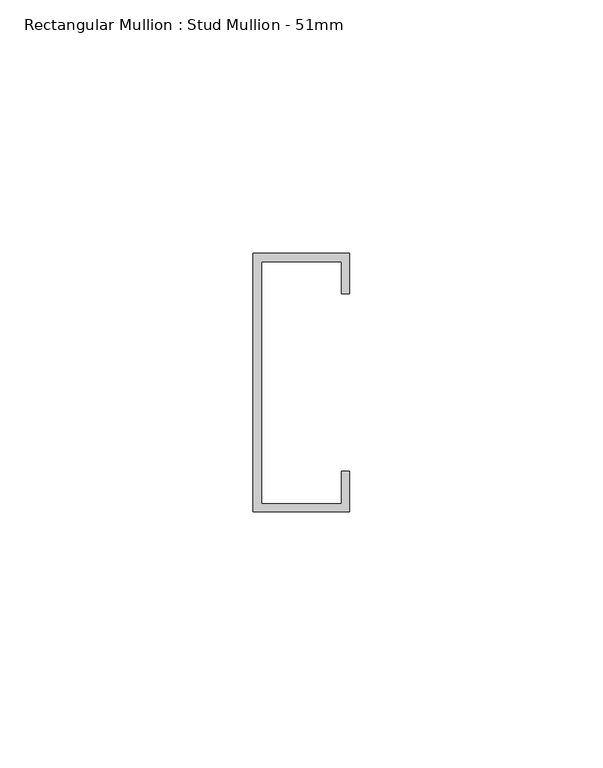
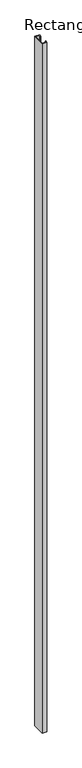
"""IFC4 building model written with IfcOpenShell, lengths in millimetres: member geometry, Rectangular Mullion : Stud Mullion - 51mm."""

import ifcopenshell
import ifcopenshell.guid

model = None  # the IFC model being written
_history = None  # IfcOwnerHistory: only IFC2X3 demands one
_inside = {}  # id of a spatial element -> (the spatial element, [elements in it])
_under = {}  # id of a project, library or spatial element -> (it, [spatial elements below it])
_declared = {}  # id of a project -> (the project, [libraries it declares])
_typed = {}  # id of a type object -> (the type object, [elements of that type])
_made_of = {}  # id of a material, layer set ... -> (it, [elements and type objects made of it])


def new_model(schema):
    """Start an empty IFC model of exactly this schema.

    Asked for "IFC4X3", IfcOpenShell would pick the latest addendum, in which some entities
    have other attributes; the version numbers below select the first issue.
    IFC2X3 requires an IfcOwnerHistory on every rooted entity: one is made here for all.
    """
    global model, _history
    if schema == "IFC4X3":
        model = ifcopenshell.file(schema_version=(4, 3, 0, 0))
    else:
        model = ifcopenshell.file(schema=schema)
    _inside.clear()
    _under.clear()
    _declared.clear()
    _typed.clear()
    _made_of.clear()
    _history = None
    if model.schema == "IFC2X3":
        org = make("IfcOrganization", Name="unknown")
        user = make(
            "IfcPersonAndOrganization",
            ThePerson=make("IfcPerson", FamilyName="unknown"),
            TheOrganization=org,
        )
        app = make(
            "IfcApplication",
            ApplicationDeveloper=org,
            Version="unknown",
            ApplicationFullName="unknown",
            ApplicationIdentifier="unknown",
        )
        _history = make(
            "IfcOwnerHistory",
            OwningUser=user,
            OwningApplication=app,
            ChangeAction="ADDED",
            CreationDate=0,
        )
    return model


def make(cls, **values):
    """One entity of the class cls with the attributes given. An attribute that is None is left unset."""
    return model.create_entity(
        cls, **{name: value for name, value in values.items() if value is not None}
    )


def rooted(cls, **values):
    """An entity with a GlobalId (a new one), such as an element, a storey or a relation."""
    return make(cls, GlobalId=ifcopenshell.guid.new(), OwnerHistory=_history, **values)


def si_unit(unit_type, name, prefix=None):
    """IfcSIUnit, for example si_unit("LENGTHUNIT", "METRE", prefix="MILLI")."""
    return make("IfcSIUnit", UnitType=unit_type, Prefix=prefix, Name=name)


def assignment(units):
    """IfcUnitAssignment: the units of a project."""
    return None if units is None else make("IfcUnitAssignment", Units=units)


def point(xyz):
    """IfcCartesianPoint."""
    return None if xyz is None else make("IfcCartesianPoint", Coordinates=xyz)


def direction(xyz):
    """IfcDirection."""
    return None if xyz is None else make("IfcDirection", DirectionRatios=xyz)


def frame(location, z_axis=None, x_axis=None):
    """IfcAxis2Placement3D, a coordinate frame: its origin and axes. An axis left out is left unset."""
    return make(
        "IfcAxis2Placement3D",
        Location=point(location),
        Axis=direction(z_axis),
        RefDirection=direction(x_axis),
    )


def origin():
    """The frame at (0, 0, 0) with its axes left unset."""
    return frame((0.0, 0.0, 0.0))


def place(relative_to, where):
    """IfcLocalPlacement: puts the frame where relative to a parent placement (None: the world)."""
    return make(
        "IfcLocalPlacement", PlacementRelTo=relative_to, RelativePlacement=where
    )


def context(
    kind, dimensions, precision=None, world=None, true_north=None, identifier=None
):
    """IfcGeometricRepresentationContext, for example the 3D "Model" context."""
    return make(
        "IfcGeometricRepresentationContext",
        ContextIdentifier=identifier,
        ContextType=kind,
        CoordinateSpaceDimension=dimensions,
        Precision=precision,
        WorldCoordinateSystem=world,
        TrueNorth=true_north,
    )


def project(units=None, contexts=None):
    """IfcProject with its units and contexts."""
    return rooted(
        "IfcProject",
        Name="project",
        RepresentationContexts=contexts,
        UnitsInContext=assignment(units),
    )


def spatial(cls, under=None, at=None, **own):
    """A site, building, storey or space (cls), placed at a placement, below another one or the project."""
    s = rooted(cls, ObjectPlacement=at, **own)
    if under is not None:
        _under.setdefault(under.id(), (under, []))[1].append(s)
    return s


def polyline(points):
    """IfcPolyline through the points."""
    return make("IfcPolyline", Points=[point(p) for p in points])


def outline(outer, holes=None, kind="AREA"):
    """IfcArbitraryClosedProfileDef: a profile drawn as a closed curve; with holes, ...WithVoids."""
    if holes is None:
        return make("IfcArbitraryClosedProfileDef", ProfileType=kind, OuterCurve=outer)
    return make(
        "IfcArbitraryProfileDefWithVoids",
        ProfileType=kind,
        OuterCurve=outer,
        InnerCurves=holes,
    )


def extrude(swept, where, along, depth):
    """IfcExtrudedAreaSolid: the profile swept, set in the frame where, extruded along a direction by depth."""
    return make(
        "IfcExtrudedAreaSolid",
        SweptArea=swept,
        Position=where,
        ExtrudedDirection=direction(along),
        Depth=depth,
    )


def shape(context_of_items, identifier, shape_type, items):
    """IfcShapeRepresentation: the items that make up one representation, for example the "Body"."""
    return make(
        "IfcShapeRepresentation",
        ContextOfItems=context_of_items,
        RepresentationIdentifier=identifier,
        RepresentationType=shape_type,
        Items=items,
    )


def source(mapping_origin, context_of_items, identifier, shape_type, items):
    """IfcRepresentationMap: a shape defined once, which mapped items show again and again."""
    return make(
        "IfcRepresentationMap",
        MappingOrigin=mapping_origin,
        MappedRepresentation=shape(context_of_items, identifier, shape_type, items),
    )


def transform(
    local_origin,
    x_axis=None,
    y_axis=None,
    z_axis=None,
    scale=None,
    scale2=None,
    scale3=None,
    uniform=True,
):
    """IfcCartesianTransformationOperator3D, or its non-uniform kind. x_axis, y_axis, z_axis: its Axis1, 2, 3."""
    if uniform:
        return make(
            "IfcCartesianTransformationOperator3D",
            Axis1=direction(x_axis),
            Axis2=direction(y_axis),
            LocalOrigin=point(local_origin),
            Scale=scale,
            Axis3=direction(z_axis),
        )
    return make(
        "IfcCartesianTransformationOperator3DnonUniform",
        Axis1=direction(x_axis),
        Axis2=direction(y_axis),
        LocalOrigin=point(local_origin),
        Scale=scale,
        Axis3=direction(z_axis),
        Scale2=scale2,
        Scale3=scale3,
    )


def mapped(mapping_source, mapping_target):
    """IfcMappedItem: shows the shape of a source again, moved by a transform."""
    return make(
        "IfcMappedItem", MappingSource=mapping_source, MappingTarget=mapping_target
    )


def made_of(thing, what):
    """Note that an element or type object is made of a material, layer set ...; save() writes the relation."""
    if what is not None:
        _made_of.setdefault(what.id(), (what, []))[1].append(thing)
    return thing


def element(
    cls,
    number,
    at=None,
    inside=None,
    cuts=None,
    type_object=None,
    material=None,
    context=None,
    identifier="Body",
    shape_type=None,
    held_by="IfcProductDefinitionShape",
    body=None,
    shapes=None,
    **own,
):
    """One element of the class cls, such as IfcWall. Its Tag is "e" and its number.

    at: its placement. inside: the storey or other place that contains it. cuts: it is an
    opening in that element (IfcRelVoidsElement). A single representation is given by context,
    identifier, shape_type and body (its items); several are given by shapes. held_by: the class
    of the entity that holds the representations. save() writes the other relations.
    """
    e = rooted(cls, Tag="e%d" % number, ObjectPlacement=at, **own)
    if body is not None:
        shapes = [shape(context, identifier, shape_type, body)]
    if shapes is not None:
        e.Representation = make(held_by, Representations=shapes)
    if inside is not None:
        _inside.setdefault(inside.id(), (inside, []))[1].append(e)
    if cuts is not None:
        rooted(
            "IfcRelVoidsElement", RelatingBuildingElement=cuts, RelatedOpeningElement=e
        )
    if type_object is not None:
        _typed.setdefault(type_object.id(), (type_object, []))[1].append(e)
    return made_of(e, material)


def aggregate(whole, parts):
    """IfcRelAggregates: a whole, such as a stair, and the parts it consists of."""
    return rooted("IfcRelAggregates", RelatingObject=whole, RelatedObjects=parts)


def save(model, path):
    """Write the relations noted so far, then the file.

    IfcRelAggregates (storeys below a building ...), IfcRelContainedInSpatialStructure (elements
    in a storey), IfcRelDefinesByType, IfcRelAssociatesMaterial and IfcRelDeclares: one each for
    every whole, place, type object, material and project.
    """
    for whole, parts in _under.values():
        aggregate(whole, parts)
    for where, things in _inside.values():
        rooted(
            "IfcRelContainedInSpatialStructure",
            RelatedElements=things,
            RelatingStructure=where,
        )
    for kind, things in _typed.values():
        rooted("IfcRelDefinesByType", RelatedObjects=things, RelatingType=kind)
    for what, things in _made_of.values():
        rooted("IfcRelAssociatesMaterial", RelatedObjects=things, RelatingMaterial=what)
    for by, libraries in _declared.values():
        rooted("IfcRelDeclares", RelatingContext=by, RelatedDefinitions=libraries)
    model.write(path)


def rectangular_mullion_stud_mullion_51mm_8a3d9f1b(model_context):
    return source(origin(), model_context, "Body", "SweptSolid", [
        extrude(outline(polyline([(9.5, 17.5), (7.9, 17.5), (7.9, 23.9), (-7.9, 23.9), (-7.9, -23.9), (7.9, -23.9), (7.9, -17.5), (9.5, -17.5), (9.5, -25.5), (-9.5, -25.5), (-9.5, 25.5), (9.5, 25.5), (9.5, 17.5)])), frame((0.0, 0.0, -3000.0), z_axis=(0.0, 0.0, 1.0), x_axis=(1.0, 0.0, 0.0)), (0.0, 0.0, 1.0), 3000.0),
    ])


if __name__ == "__main__":
    model = new_model("IFC4")
    model_context = context("Model", 3, world=origin())
    ifc_project = project(units=[si_unit("LENGTHUNIT", "METRE", prefix="MILLI")], contexts=[model_context])
    site = spatial("IfcSite", under=ifc_project)
    building = spatial("IfcBuilding", under=site)
    placement = place(None, origin())
    rectangular_mullion_stud_mullion_51mm_shape = rectangular_mullion_stud_mullion_51mm_8a3d9f1b(model_context)
    element("IfcMember", 1, ObjectType="Rectangular Mullion : Stud Mullion - 51mm", at=placement, inside=building, context=model_context, shape_type="MappedRepresentation", body=[
        mapped(rectangular_mullion_stud_mullion_51mm_shape, transform((0.0, 0.0, 0.0), x_axis=(1.0, 0.0, 0.0), y_axis=(0.0, 1.0, 0.0), z_axis=(0.0, 0.0, 1.0))),
    ])
    save(model, "model.ifc")
